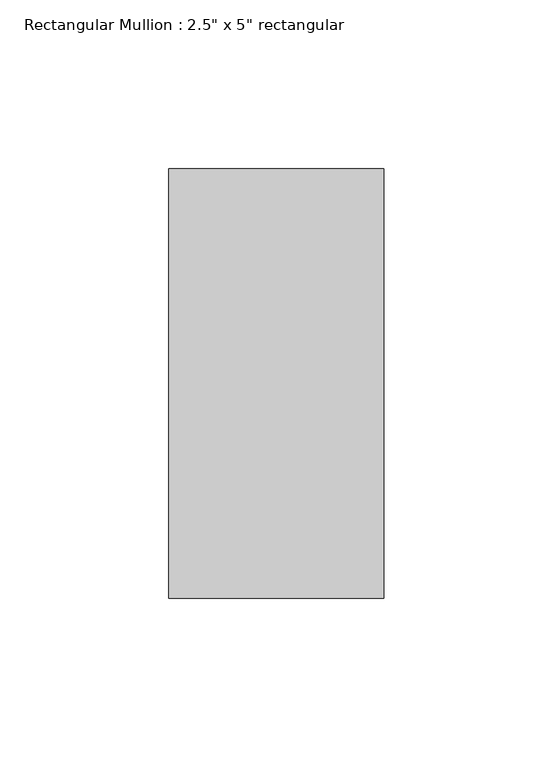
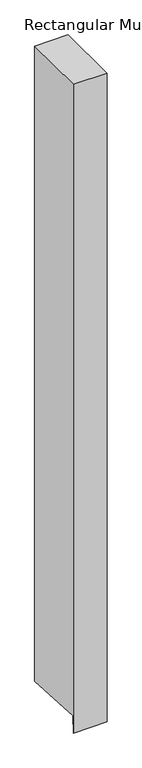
"""IFC4 building model written with IfcOpenShell, lengths in millimetres: member geometry."""

from ifc_helpers import new_model, si_unit, frame, origin, place, context, project, spatial, polyline, outline, extrude, source, transform, mapped, element, save


def member_c8919daf(model_context):
    return source(origin(), model_context, "Body", "SweptSolid", [
        extrude(outline(polyline([(-63.5, 0.0), (63.5, 0.0), (63.5, -1271.9762757), (-61.5532406, -1264.7167653), (-63.5, -1298.2518872), (-63.5, 0.0)])), frame((-63.5, 0.0, 0.0), z_axis=(1.0, 0.0, 0.0), x_axis=(0.0, 1.0, 0.0)), (0.0, 0.0, 1.0), 63.5),
    ])


if __name__ == "__main__":
    model = new_model("IFC4")
    model_context = context("Model", 3, world=origin())
    ifc_project = project(units=[si_unit("LENGTHUNIT", "METRE", prefix="MILLI")], contexts=[model_context])
    site = spatial("IfcSite", under=ifc_project)
    building = spatial("IfcBuilding", under=site)
    placement = place(None, origin())
    member_shape = member_c8919daf(model_context)
    element("IfcMember", 1, ObjectType="Rectangular Mullion : 2.5\" x 5\" rectangular", at=placement, inside=building, context=model_context, shape_type="MappedRepresentation", body=[
        mapped(member_shape, transform((0.0, 0.0, 0.0), x_axis=(1.0, 0.0, 0.0), y_axis=(0.0, 1.0, 0.0), z_axis=(0.0, 0.0, 1.0))),
    ])
    save(model, "model.ifc")
